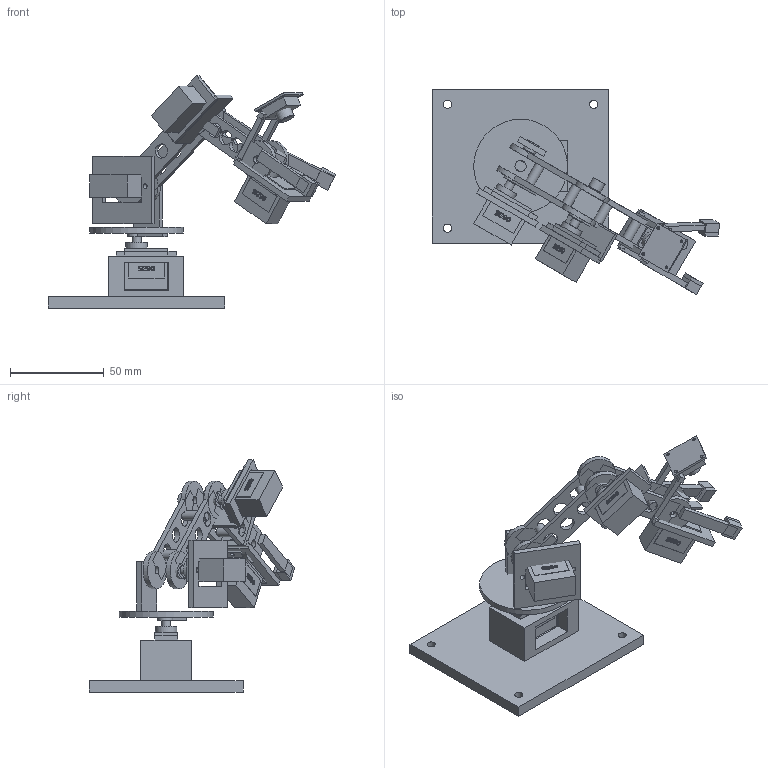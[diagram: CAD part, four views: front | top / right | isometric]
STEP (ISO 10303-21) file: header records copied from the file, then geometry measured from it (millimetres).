
FILE_DESCRIPTION(('Open CASCADE Model'),'2;1');
FILE_NAME('Open CASCADE Shape Model','2026-10-04T13:23:50',('Author'),( 'Open CASCADE'),'Open CASCADE STEP processor 7.8','Open CASCADE 7.8' ,'Unknown');
FILE_SCHEMA(('AUTOMOTIVE_DESIGN { 1 0 10303 214 1 1 1 1 }'));
Length unit declared in the file: millimetre
Products named in the file (45): SG90 arm with wrist camera; base; yaw-servo-cradle; S1-base-SG90; turntable; shoulder-mount; shoulder-idler-post; S2-shoulder-SG90; upper-cheek--7; upper-cheek-7; upper-spacer-12; upper-spacer-43; upper-idler; fore-cheek--7; fore-cheek-7; fore-spacer-12; fore-spacer-33; fore-idler; elbow-cradle; elbow-mount-bridge; S3-elbow-SG90; upper-supplied-horn; fore-supplied-horn; S4-gripper-SG90; gripper-cradle; gripper-horn; yaw-horn; S1-base-SG90-label; S1-base-SG90-label-text; S2-shoulder-SG90-label; S2-shoulder-SG90-label-text; S3-elbow-SG90-label; S3-elbow-SG90-label-text; S4-gripper-SG90-label; S4-gripper-SG90-label-text; vision-fixed-jaw; vision-moving-jaw; vision-fixed-pad; vision-moving-pad; camera-mount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
Assembly tree (44 placements, depth 2):
  SG90 arm with wrist camera
    base
    yaw-servo-cradle
    S1-base-SG90
    turntable
    shoulder-mount
    shoulder-idler-post
    S2-shoulder-SG90
    upper-cheek--7
    upper-cheek-7
    upper-spacer-12
    upper-spacer-43
    upper-idler
    fore-cheek--7
    fore-cheek-7
    fore-spacer-12
    fore-spacer-33
    fore-idler
    elbow-cradle
    elbow-mount-bridge
    S3-elbow-SG90
    upper-supplied-horn
    fore-supplied-horn
    S4-gripper-SG90
    gripper-cradle
    gripper-horn
    yaw-horn
    S1-base-SG90-label
    S1-base-SG90-label-text
    S2-shoulder-SG90-label
    S2-shoulder-SG90-label-text
    S3-elbow-SG90-label
    S3-elbow-SG90-label-text
    S4-gripper-SG90-label
    S4-gripper-SG90-label-text
    vision-fixed-jaw
    vision-moving-jaw
    vision-fixed-pad
    vision-moving-pad
    camera-mount
    camera-board
    camera-body
    camera-lens-barrel
    camera-optical-glass
    camera-status-led
Bounding box: 153.07 x 109.57 x 123.75 mm (x, y, z)
Volume: 119092.2 mm3; surface area: 66374.8 mm2
Topology: 56 solids, 56 shells, 849 faces, 2119 edges, 1372 vertices
Faces by surface type: plane 452, extrusion 320, cylinder 77
Full cylindrical faces by diameter (mm): 1.6 x4, 1.8 x1, 2.2 x8, 2.4 x2, 4 x8, 4.4 x4, 4.8 x4, 5.2 x4, 6 x1, 6.6 x1, 7.2 x2, 7.6 x6, 9 x1, 11.4 x4, 50 x1
Entity records: 54671 total; most frequent: CARTESIAN_POINT 12507, DIRECTION 6657, VECTOR 4905, LINE 4585, ORIENTED_EDGE 4238, PCURVE 4238, DEFINITIONAL_REPRESENTATION 4238, EDGE_CURVE 2119
